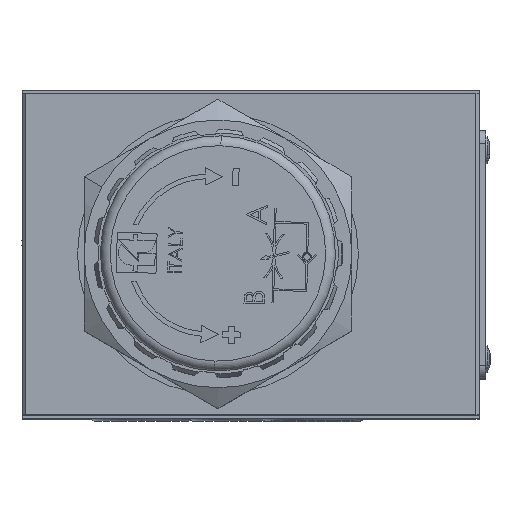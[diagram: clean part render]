
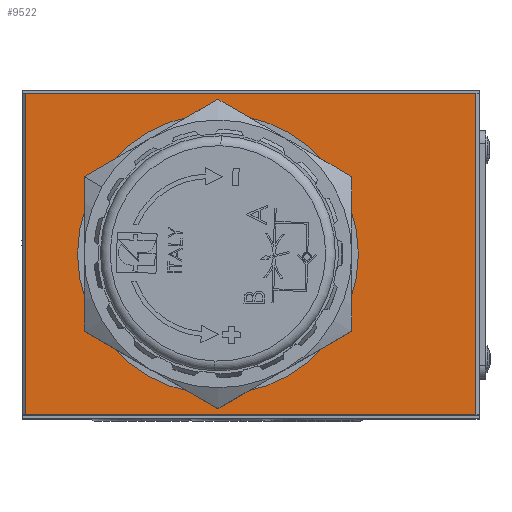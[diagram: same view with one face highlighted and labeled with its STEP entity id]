
A CAD part, top view. The second image highlights one B-rep face of the part: STEP entity #9522.
In plain terms, the highlighted planar face has unit normal (0, 0, 1).
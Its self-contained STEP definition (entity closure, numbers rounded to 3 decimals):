
#4384 = ORIENTED_EDGE ( 'NONE', *, *, #19647, .T. ) ;
#4789 = CARTESIAN_POINT ( 'NONE',  ( 34.5, -25.1, 55. ) ) ;
#5689 = CIRCLE ( 'NONE', #33456, 21.5 ) ;
#6506 = VERTEX_POINT ( 'NONE', #54546 ) ;
#7721 = DIRECTION ( 'NONE',  ( -1., 0., 0. ) ) ;
#8243 = ORIENTED_EDGE ( 'NONE', *, *, #23880, .T. ) ;
#9302 = CARTESIAN_POINT ( 'NONE',  ( 16.5, 0., 55. ) ) ;
#9522 = ADVANCED_FACE ( 'NONE', ( #46290, #58892 ), #39759, .F. ) ;
#10466 = DIRECTION ( 'NONE',  ( -1., 0., 0. ) ) ;
#10512 = CIRCLE ( 'NONE', #21827, 21.5 ) ;
#10891 = DIRECTION ( 'NONE',  ( 0., 0., -1. ) ) ;
#11596 = EDGE_LOOP ( 'NONE', ( #33065, #61180, #40217, #8243 ) ) ;
#16383 = DIRECTION ( 'NONE',  ( -1., 0., 0. ) ) ;
#17187 = LINE ( 'NONE', #60204, #31955 ) ;
#17720 = VERTEX_POINT ( 'NONE', #34875 ) ;
#19647 = EDGE_CURVE ( 'NONE', #36114, #54195, #5689, .T. ) ;
#20193 = EDGE_CURVE ( 'NONE', #31512, #17720, #36676, .T. ) ;
#21146 = LINE ( 'NONE', #52102, #25577 ) ;
#21394 = DIRECTION ( 'NONE',  ( 0., 0., -1. ) ) ;
#21603 = CARTESIAN_POINT ( 'NONE',  ( 35., -25.1, 55. ) ) ;
#21827 = AXIS2_PLACEMENT_3D ( 'NONE', #47781, #47986, #47184 ) ;
#23255 = EDGE_CURVE ( 'NONE', #54195, #36114, #10512, .T. ) ;
#23429 = CARTESIAN_POINT ( 'NONE',  ( 34.5, -24.6, 55. ) ) ;
#23542 = ORIENTED_EDGE ( 'NONE', *, *, #23255, .T. ) ;
#23880 = EDGE_CURVE ( 'NONE', #17720, #6506, #21146, .T. ) ;
#25252 = CARTESIAN_POINT ( 'NONE',  ( 34.5, 24.6, 55. ) ) ;
#25577 = VECTOR ( 'NONE', #51904, 1000. ) ;
#25729 = CARTESIAN_POINT ( 'NONE',  ( 35., 24.6, 55. ) ) ;
#28320 = VERTEX_POINT ( 'NONE', #23429 ) ;
#31349 = EDGE_CURVE ( 'NONE', #6506, #28320, #17187, .T. ) ;
#31512 = VERTEX_POINT ( 'NONE', #25252 ) ;
#31552 = LINE ( 'NONE', #4789, #35212 ) ;
#31955 = VECTOR ( 'NONE', #47375, 1000. ) ;
#33065 = ORIENTED_EDGE ( 'NONE', *, *, #31349, .T. ) ;
#33209 = EDGE_LOOP ( 'NONE', ( #4384, #23542 ) ) ;
#33456 = AXIS2_PLACEMENT_3D ( 'NONE', #48089, #10891, #10466 ) ;
#34875 = CARTESIAN_POINT ( 'NONE',  ( -34.5, 24.6, 55. ) ) ;
#35212 = VECTOR ( 'NONE', #51740, 1000. ) ;
#36114 = VERTEX_POINT ( 'NONE', #47326 ) ;
#36676 = LINE ( 'NONE', #25729, #48512 ) ;
#39759 = PLANE ( 'NONE',  #58873 ) ;
#40217 = ORIENTED_EDGE ( 'NONE', *, *, #20193, .T. ) ;
#46290 = FACE_BOUND ( 'NONE', #33209, .T. ) ;
#47184 = DIRECTION ( 'NONE',  ( -1., 0., 0. ) ) ;
#47326 = CARTESIAN_POINT ( 'NONE',  ( -26.5, 0., 55. ) ) ;
#47375 = DIRECTION ( 'NONE',  ( 1., 0., 0. ) ) ;
#47781 = CARTESIAN_POINT ( 'NONE',  ( -5., 0., 55. ) ) ;
#47986 = DIRECTION ( 'NONE',  ( 0., 0., -1. ) ) ;
#48089 = CARTESIAN_POINT ( 'NONE',  ( -5., 0., 55. ) ) ;
#48512 = VECTOR ( 'NONE', #16383, 1000. ) ;
#51740 = DIRECTION ( 'NONE',  ( 0., 1., 0. ) ) ;
#51904 = DIRECTION ( 'NONE',  ( 0., -1., 0. ) ) ;
#52102 = CARTESIAN_POINT ( 'NONE',  ( -34.5, -25.1, 55. ) ) ;
#54195 = VERTEX_POINT ( 'NONE', #9302 ) ;
#54546 = CARTESIAN_POINT ( 'NONE',  ( -34.5, -24.6, 55. ) ) ;
#58873 = AXIS2_PLACEMENT_3D ( 'NONE', #21603, #21394, #7721 ) ;
#58892 = FACE_OUTER_BOUND ( 'NONE', #11596, .T. ) ;
#59273 = EDGE_CURVE ( 'NONE', #28320, #31512, #31552, .T. ) ;
#60204 = CARTESIAN_POINT ( 'NONE',  ( -35., -24.6, 55. ) ) ;
#61180 = ORIENTED_EDGE ( 'NONE', *, *, #59273, .T. ) ;
